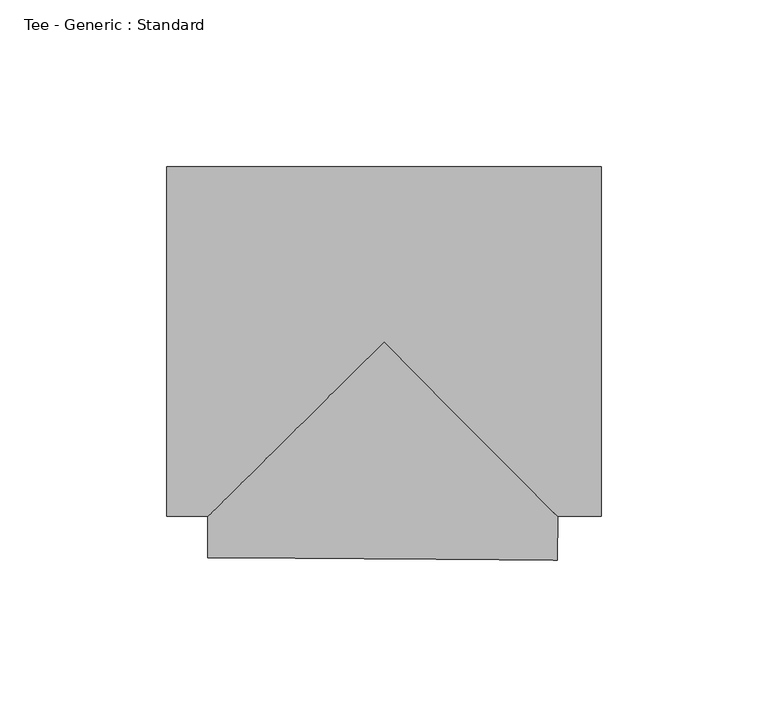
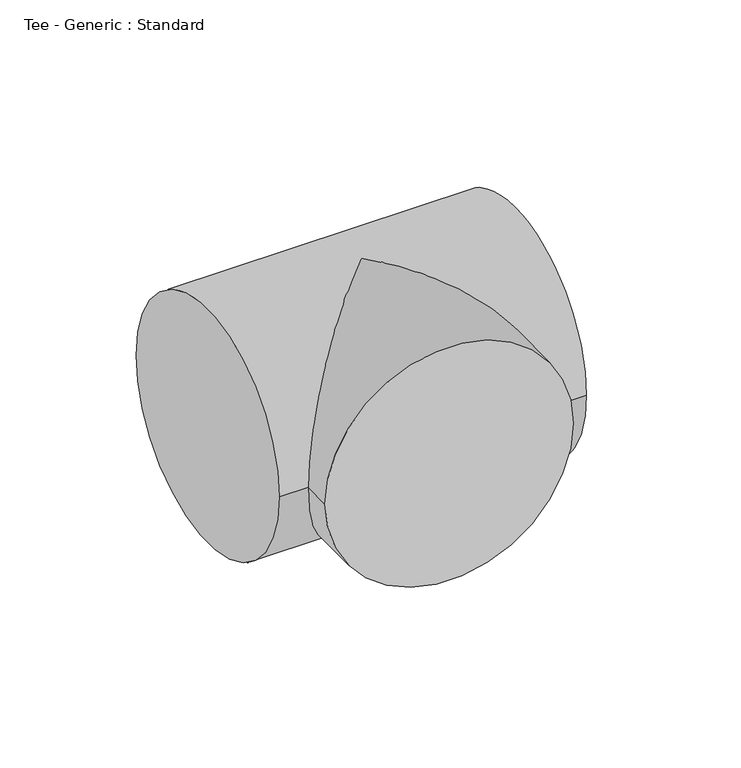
"""IFC4 building model written with IfcOpenShell, lengths in millimetres: pipe fitting geometry, Tee - Generic : Standard."""

from ifc_helpers import new_model, si_unit, frame, origin, place, context, project, spatial, circle_curve, ellipse_curve, source, transform, mapped, element, save
from ifc_brep_helpers import plane_surface, cylinder_surface, advanced_brep


def tee_generic_standard_21caa2af(model_context):
    return source(origin(), model_context, "Body", "AdvancedBrep", [
        advanced_brep(
        [(-65.0875, -52.3875, 0.0), (-65.0875, 52.3875, 0.0), (65.0875, -52.3875, 0.0), (65.0875, 52.3875, 0.0), (-52.7669182, -52.3875, 0.0), (0.0, 0.0, 52.3875), (52.01081, -52.3875, 0.0), (0.0, 0.0, -52.3875), (-52.8558273, -64.707761, 0.0), (51.9164445, -65.4638496, 0.0)],
        [
            (0, 1, circle_curve(frame((-65.0875, 0.0, 0.0), z_axis=(-1.0, 0.0, 0.0), x_axis=(0.0, 1.0, 0.0)), 52.3875)),
            (1, 0, circle_curve(frame((-65.0875, 0.0, 0.0), z_axis=(-1.0, 0.0, 0.0), x_axis=(0.0, 1.0, 0.0)), 52.3875)),
            (2, 3, circle_curve(frame((65.0875, 0.0, 0.0), z_axis=(1.0, 0.0, 0.0), x_axis=(0.0, 1.0, 0.0)), 52.3875)),
            (3, 2, circle_curve(frame((65.0875, 0.0, 0.0), z_axis=(1.0, 0.0, 0.0), x_axis=(0.0, 1.0, 0.0)), 52.3875)),
            (0, 4),
            (4, 5, ellipse_curve(frame((0.0, 0.0, 0.0), z_axis=(-0.7045508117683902, 0.7096535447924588, 0.0), x_axis=(-0.7096535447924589, -0.7045508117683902, 0.0)), 74.3558862, 52.3875)),
            (5, 6, ellipse_curve(frame((0.0, 0.0, 0.0), z_axis=(0.7096535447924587, 0.7045508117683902, 0.0), x_axis=(-0.7045508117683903, 0.7096535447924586, 0.0)), 73.8212335, 52.3875)),
            (6, 2),
            (3, 1),
            (6, 7, ellipse_curve(frame((0.0, 0.0, 0.0), z_axis=(0.7096535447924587, 0.7045508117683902, 0.0), x_axis=(-0.7045508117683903, 0.7096535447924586, 0.0)), 73.8212335, 52.3875)),
            (7, 4, ellipse_curve(frame((0.0, 0.0, 0.0), z_axis=(-0.7045508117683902, 0.7096535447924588, 0.0), x_axis=(-0.7096535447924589, -0.7045508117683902, 0.0)), 74.3558862, 52.3875)),
            (8, 9, circle_curve(frame((-0.4696914, -65.0858053, 0.0), z_axis=(-0.007216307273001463, -0.9999739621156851, 0.0), x_axis=(0.9999739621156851, -0.007216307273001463, 0.0)), 52.3875)),
            (9, 8, circle_curve(frame((-0.4696914, -65.0858053, 0.0), z_axis=(-0.007216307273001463, -0.9999739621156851, 0.0), x_axis=(0.9999739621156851, -0.007216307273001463, 0.0)), 52.3875)),
            (9, 6),
            (4, 8),
        ],
        [
            plane_surface(frame((-65.0875, 0.0, 0.0), z_axis=(-1.0, 0.0, 0.0), x_axis=(0.0, 0.0, 1.0))),
            plane_surface(frame((65.0875, 0.0, 0.0), z_axis=(1.0, 0.0, 0.0), x_axis=(0.0, 0.0, 1.0))),
            cylinder_surface(frame((-65.0875, 0.0, 0.0), z_axis=(-1.0, 0.0, 0.0), x_axis=(0.0, 1.0, 0.0)), 52.3875),
            plane_surface(frame((-0.4696914, -65.0858053, 0.0), z_axis=(-0.007216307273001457, -0.9999739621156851, 0.0), x_axis=(0.0, 0.0, 1.0))),
            cylinder_surface(frame((0.0, 0.0, 0.0), z_axis=(0.007216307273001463, 0.9999739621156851, 0.0), x_axis=(0.9999739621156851, -0.007216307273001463, 0.0)), 52.3875),
        ],
        [
            (0, [[1, 2]]),
            (1, [[3, 4]]),
            (2, [[-1, 5, 6, 7, 8, -4, 9]]),
            (2, [[-2, -9, -3, -8, 10, 11, -5]]),
            (3, [[12, 13]]),
            (4, [[-13, 14, -7, -6, 15]]),
            (4, [[-12, -15, -11, -10, -14]]),
        ],
    ),
    ])


if __name__ == "__main__":
    model = new_model("IFC4")
    model_context = context("Model", 3, world=origin())
    ifc_project = project(units=[si_unit("LENGTHUNIT", "METRE", prefix="MILLI")], contexts=[model_context])
    site = spatial("IfcSite", under=ifc_project)
    building = spatial("IfcBuilding", under=site)
    placement = place(None, origin())
    tee_generic_standard_shape = tee_generic_standard_21caa2af(model_context)
    element("IfcPipeFitting", 1, ObjectType="Tee - Generic : Standard", at=placement, inside=building, context=model_context, shape_type="MappedRepresentation", body=[
        mapped(tee_generic_standard_shape, transform((0.0, 0.0, 0.0), x_axis=(1.0, 0.0, 0.0), y_axis=(0.0, 1.0, 0.0), z_axis=(0.0, 0.0, 1.0))),
    ])
    save(model, "model.ifc")
